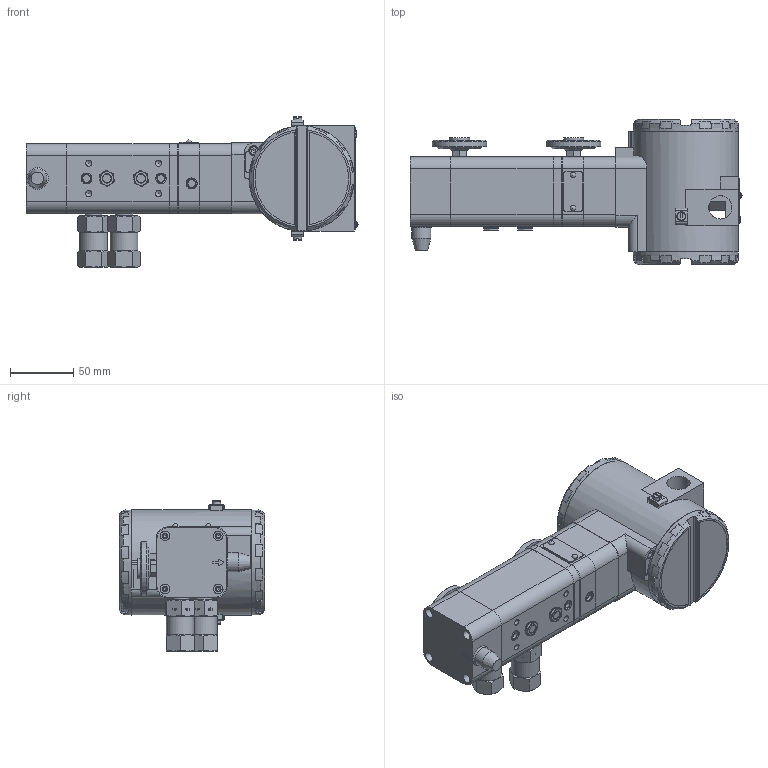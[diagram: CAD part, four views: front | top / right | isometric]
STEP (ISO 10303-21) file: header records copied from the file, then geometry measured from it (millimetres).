
FILE_DESCRIPTION(/* description */ (''),/* implementation_level */ '2;1');
FILE_NAME(/* name */ 'F:\Area\Desenvolvimento_2\Projects\Sensor\projetos\Natasha\Desenho FY\Steps\FY30X_2MAN_IN_OUT1_SA.stp',/* time_stamp */ '2023-03-02T09:47:18-03:00',/* author */ ('inventor02'),/* organization */ (''),/* preprocessor_version */ 'ST-DEVELOPER v17',/* originating_system */ 'Autodesk Inventor 2019',/* authorisation */ '');
FILE_SCHEMA (('CONFIG_CONTROL_DESIGN'));
Products named in the file (56): Subconjunto FY completo; Subconjunto transdutor; Subconjunto bloco; Bloco usinado; Subconjunto filtro ar 1-4 npt; Conexao traseira 1-4 npt; Elemento filtrante; Conexao frontal 1-4 npt; O-ring da conexao 1-4 npt; Subconjunto vant plug; Vent plug; Filtro vant plug; Subconjunto sealing plugs.0007; Sealing plugs; Sealing plugs sphere; DIN 913 - M10 x 10; DIN 913 - M12 x 16; Subconjunto do diafragma; Junta superiror diafragma; arruela superior diafragma; Distanciador uniao diafragma; Junta inferior diafragma; Eixo do diafragma; Intermediaria; Subconjunto base; Base usinada; Restricao; Subconjunto sinterizado; Bucha do sinterizado; Sinterizado retificado; Plaqueta sem texto; Rebite U; MANÔMETRO; Subconjunto tampa ligacao; Tampa de ligacao usinada; Subconjunto da Tampa do Hall; Tampa do Hall; Subconjunto transmissor; Subconjunto carcaca transmissor; Carcaca usinada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
Assembly tree (68 placements, depth 5):
  Subconjunto FY completo
    Subconjunto transdutor
      Subconjunto bloco
        Bloco usinado
        Subconjunto sinterizado  x2
          Bucha do sinterizado
          Sinterizado retificado
        Subconjunto filtro ar 1-4 npt  x2
          Conexao traseira 1-4 npt
          Elemento filtrante
          Conexao frontal 1-4 npt
          O-ring da conexao 1-4 npt
        Subconjunto vant plug  x2
          Vent plug
          Filtro vant plug
        Subconjunto sealing plugs.0007  x2
          Sealing plugs
          Sealing plugs sphere
        MANÔMETRO
        DIN 913 - M10 x 10
        DIN 913 - M12 x 16
      Subconjunto do diafragma
        Junta superiror diafragma
        arruela superior diafragma
        Distanciador uniao diafragma
        Junta inferior diafragma
        Eixo do diafragma
        Intermediaria
      Subconjunto base
        Base usinada
        Restricao
        Subconjunto sinterizado  x2
          Bucha do sinterizado
          Sinterizado retificado
        Plaqueta sem texto
        Rebite U  x2
        MANÔMETRO
      Subconjunto tampa ligacao
        Tampa de ligacao usinada
      Subconjunto da Tampa do Hall
        Tampa do Hall
    Subconjunto transmissor
      Subconjunto carcaca transmissor
        Carcaca usinada
        Chapa aterramento externo  x2
        ISO 1207 - M4 x 8  x2
        Tampao Z-S  x2
      Subconjunto tampa com visor
        Tampa macho com visor
        VIDRO DO VISOR
        Trava do vidro da tampa com visor
      Subconjunto tampa sem visor
        Tampa macho sem visor_2
      Subconjunto display
      DIN 912 - M4 x 8  x2
      DIN 912 - M4 x 6
      DIN 84 - M3 x 4
      Rebite da Plaqueta
      Subconjunto plaqueta
        Plaqueta transmissor
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Bounding box: 261.91 x 114.5 x 118.65 mm (x, y, z)
Volume: 784179.9 mm3; surface area: 293938.1 mm2
Topology: 60 solids, 60 shells, 2318 faces, 6259 edges, 4285 vertices
Faces by surface type: plane 1028, cylinder 516, bspline 451, cone 219, torus 90, sphere 14
Full cylindrical faces by diameter (mm): 1.3 x1, 2 x2, 2.1 x5, 2.11 x2, 2.459 x5, 2.5 x4, 2.54 x4, 2.7 x4, 2.729 x1, 2.8 x2, 3 x3, 3.1 x1, 3.2 x24, 3.242 x16, 3.5 x3, 3.57 x2, 3.6 x1, 3.65 x1, 3.8 x1, 4 x16, 4.2 x1, 4.3 x18, 4.4 x2, 4.5 x9, 4.917 x4, 5.2 x2, 5.3 x4, 5.5 x4, 5.9 x3, 6.3 x4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
Entity records: 59433 total; most frequent: CARTESIAN_POINT 14761, ORIENTED_EDGE 8954, DIRECTION 8704, EDGE_CURVE 4477, AXIS2_PLACEMENT_3D 3347, VERTEX_POINT 3112, EDGE_LOOP 2053, LINE 2010
